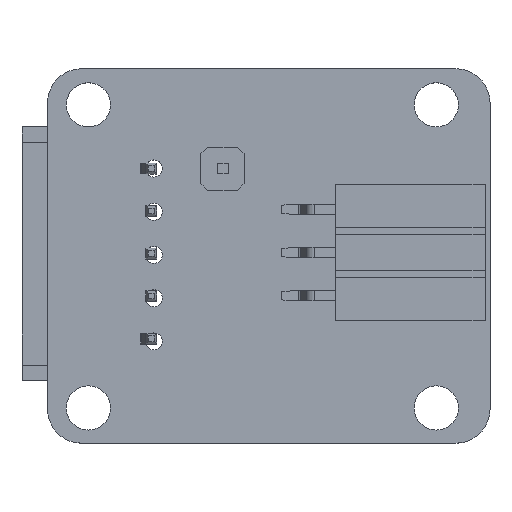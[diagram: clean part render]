
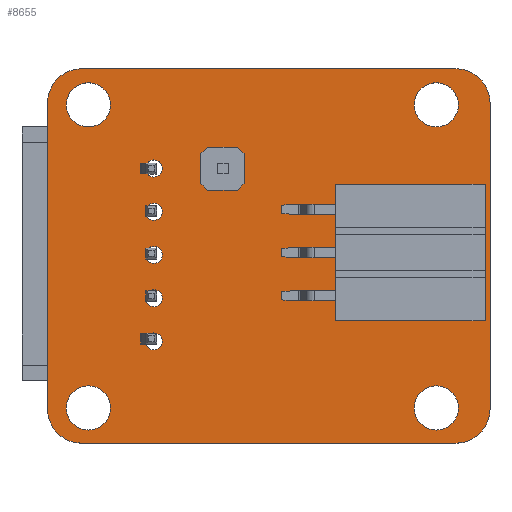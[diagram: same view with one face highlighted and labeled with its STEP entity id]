
A CAD part, top view. The second image highlights one B-rep face of the part: STEP entity #8655.
In plain terms, the highlighted planar face has unit normal (0, 0, 1).
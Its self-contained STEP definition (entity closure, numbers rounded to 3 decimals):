
#8396 = VERTEX_POINT('',#8397);
#8397 = CARTESIAN_POINT('',(79.53,-64.16,1.51));
#8403 = EDGE_CURVE('',#8396,#8404,#8406,.T.);
#8404 = VERTEX_POINT('',#8405);
#8405 = CARTESIAN_POINT('',(81.53,-66.16,1.51));
#8406 = CIRCLE('',#8407,2.);
#8407 = AXIS2_PLACEMENT_3D('',#8408,#8409,#8410);
#8408 = CARTESIAN_POINT('',(79.53,-66.16,1.51));
#8409 = DIRECTION('',(0.,0.,-1.));
#8410 = DIRECTION('',(0.,1.,0.));
#8438 = VERTEX_POINT('',#8439);
#8439 = CARTESIAN_POINT('',(57.53,-64.16,1.51));
#8445 = EDGE_CURVE('',#8438,#8396,#8446,.T.);
#8446 = LINE('',#8447,#8448);
#8447 = CARTESIAN_POINT('',(57.53,-64.16,1.51));
#8448 = VECTOR('',#8449,1.);
#8449 = DIRECTION('',(1.,0.,0.));
#8467 = EDGE_CURVE('',#8404,#8468,#8470,.T.);
#8468 = VERTEX_POINT('',#8469);
#8469 = CARTESIAN_POINT('',(81.53,-84.16,1.51));
#8470 = LINE('',#8471,#8472);
#8471 = CARTESIAN_POINT('',(81.53,-66.16,1.51));
#8472 = VECTOR('',#8473,1.);
#8473 = DIRECTION('',(0.,-1.,0.));
#8655 = ADVANCED_FACE('',(#8656,#8702,#8713,#8724,#8735,#8746,#8757,
    #8768,#8779,#8790,#8801),#8812,.T.);
#8656 = FACE_BOUND('',#8657,.T.);
#8657 = EDGE_LOOP('',(#8658,#8659,#8660,#8669,#8677,#8686,#8694,#8701));
#8658 = ORIENTED_EDGE('',*,*,#8403,.F.);
#8659 = ORIENTED_EDGE('',*,*,#8445,.F.);
#8660 = ORIENTED_EDGE('',*,*,#8661,.F.);
#8661 = EDGE_CURVE('',#8662,#8438,#8664,.T.);
#8662 = VERTEX_POINT('',#8663);
#8663 = CARTESIAN_POINT('',(55.53,-66.16,1.51));
#8664 = CIRCLE('',#8665,2.);
#8665 = AXIS2_PLACEMENT_3D('',#8666,#8667,#8668);
#8666 = CARTESIAN_POINT('',(57.53,-66.16,1.51));
#8667 = DIRECTION('',(0.,0.,-1.));
#8668 = DIRECTION('',(-1.,0.,-0.));
#8669 = ORIENTED_EDGE('',*,*,#8670,.F.);
#8670 = EDGE_CURVE('',#8671,#8662,#8673,.T.);
#8671 = VERTEX_POINT('',#8672);
#8672 = CARTESIAN_POINT('',(55.53,-84.16,1.51));
#8673 = LINE('',#8674,#8675);
#8674 = CARTESIAN_POINT('',(55.53,-84.16,1.51));
#8675 = VECTOR('',#8676,1.);
#8676 = DIRECTION('',(0.,1.,0.));
#8677 = ORIENTED_EDGE('',*,*,#8678,.F.);
#8678 = EDGE_CURVE('',#8679,#8671,#8681,.T.);
#8679 = VERTEX_POINT('',#8680);
#8680 = CARTESIAN_POINT('',(57.53,-86.16,1.51));
#8681 = CIRCLE('',#8682,2.);
#8682 = AXIS2_PLACEMENT_3D('',#8683,#8684,#8685);
#8683 = CARTESIAN_POINT('',(57.53,-84.16,1.51));
#8684 = DIRECTION('',(0.,0.,-1.));
#8685 = DIRECTION('',(0.,-1.,0.));
#8686 = ORIENTED_EDGE('',*,*,#8687,.F.);
#8687 = EDGE_CURVE('',#8688,#8679,#8690,.T.);
#8688 = VERTEX_POINT('',#8689);
#8689 = CARTESIAN_POINT('',(79.53,-86.16,1.51));
#8690 = LINE('',#8691,#8692);
#8691 = CARTESIAN_POINT('',(79.53,-86.16,1.51));
#8692 = VECTOR('',#8693,1.);
#8693 = DIRECTION('',(-1.,0.,0.));
#8694 = ORIENTED_EDGE('',*,*,#8695,.F.);
#8695 = EDGE_CURVE('',#8468,#8688,#8696,.T.);
#8696 = CIRCLE('',#8697,2.);
#8697 = AXIS2_PLACEMENT_3D('',#8698,#8699,#8700);
#8698 = CARTESIAN_POINT('',(79.53,-84.16,1.51));
#8699 = DIRECTION('',(0.,0.,-1.));
#8700 = DIRECTION('',(1.,0.,0.));
#8701 = ORIENTED_EDGE('',*,*,#8467,.F.);
#8702 = FACE_BOUND('',#8703,.T.);
#8703 = EDGE_LOOP('',(#8704));
#8704 = ORIENTED_EDGE('',*,*,#8705,.T.);
#8705 = EDGE_CURVE('',#8706,#8706,#8708,.T.);
#8706 = VERTEX_POINT('',#8707);
#8707 = CARTESIAN_POINT('',(57.93,-85.39,1.51));
#8708 = CIRCLE('',#8709,1.3);
#8709 = AXIS2_PLACEMENT_3D('',#8710,#8711,#8712);
#8710 = CARTESIAN_POINT('',(57.93,-84.09,1.51));
#8711 = DIRECTION('',(-0.,0.,-1.));
#8712 = DIRECTION('',(-0.,-1.,0.));
#8713 = FACE_BOUND('',#8714,.T.);
#8714 = EDGE_LOOP('',(#8715));
#8715 = ORIENTED_EDGE('',*,*,#8716,.T.);
#8716 = EDGE_CURVE('',#8717,#8717,#8719,.T.);
#8717 = VERTEX_POINT('',#8718);
#8718 = CARTESIAN_POINT('',(61.78,-80.68,1.51));
#8719 = CIRCLE('',#8720,0.5);
#8720 = AXIS2_PLACEMENT_3D('',#8721,#8722,#8723);
#8721 = CARTESIAN_POINT('',(61.78,-80.18,1.51));
#8722 = DIRECTION('',(-0.,0.,-1.));
#8723 = DIRECTION('',(-0.,-1.,0.));
#8724 = FACE_BOUND('',#8725,.T.);
#8725 = EDGE_LOOP('',(#8726));
#8726 = ORIENTED_EDGE('',*,*,#8727,.T.);
#8727 = EDGE_CURVE('',#8728,#8728,#8730,.T.);
#8728 = VERTEX_POINT('',#8729);
#8729 = CARTESIAN_POINT('',(61.78,-78.14,1.51));
#8730 = CIRCLE('',#8731,0.5);
#8731 = AXIS2_PLACEMENT_3D('',#8732,#8733,#8734);
#8732 = CARTESIAN_POINT('',(61.78,-77.64,1.51));
#8733 = DIRECTION('',(-0.,0.,-1.));
#8734 = DIRECTION('',(-0.,-1.,0.));
#8735 = FACE_BOUND('',#8736,.T.);
#8736 = EDGE_LOOP('',(#8737));
#8737 = ORIENTED_EDGE('',*,*,#8738,.T.);
#8738 = EDGE_CURVE('',#8739,#8739,#8741,.T.);
#8739 = VERTEX_POINT('',#8740);
#8740 = CARTESIAN_POINT('',(78.37,-85.39,1.51));
#8741 = CIRCLE('',#8742,1.3);
#8742 = AXIS2_PLACEMENT_3D('',#8743,#8744,#8745);
#8743 = CARTESIAN_POINT('',(78.37,-84.09,1.51));
#8744 = DIRECTION('',(-0.,0.,-1.));
#8745 = DIRECTION('',(-0.,-1.,0.));
#8746 = FACE_BOUND('',#8747,.T.);
#8747 = EDGE_LOOP('',(#8748));
#8748 = ORIENTED_EDGE('',*,*,#8749,.T.);
#8749 = EDGE_CURVE('',#8750,#8750,#8752,.T.);
#8750 = VERTEX_POINT('',#8751);
#8751 = CARTESIAN_POINT('',(61.78,-75.6,1.51));
#8752 = CIRCLE('',#8753,0.5);
#8753 = AXIS2_PLACEMENT_3D('',#8754,#8755,#8756);
#8754 = CARTESIAN_POINT('',(61.78,-75.1,1.51));
#8755 = DIRECTION('',(-0.,0.,-1.));
#8756 = DIRECTION('',(-0.,-1.,0.));
#8757 = FACE_BOUND('',#8758,.T.);
#8758 = EDGE_LOOP('',(#8759));
#8759 = ORIENTED_EDGE('',*,*,#8760,.T.);
#8760 = EDGE_CURVE('',#8761,#8761,#8763,.T.);
#8761 = VERTEX_POINT('',#8762);
#8762 = CARTESIAN_POINT('',(61.78,-73.06,1.51));
#8763 = CIRCLE('',#8764,0.5);
#8764 = AXIS2_PLACEMENT_3D('',#8765,#8766,#8767);
#8765 = CARTESIAN_POINT('',(61.78,-72.56,1.51));
#8766 = DIRECTION('',(-0.,0.,-1.));
#8767 = DIRECTION('',(-0.,-1.,0.));
#8768 = FACE_BOUND('',#8769,.T.);
#8769 = EDGE_LOOP('',(#8770));
#8770 = ORIENTED_EDGE('',*,*,#8771,.T.);
#8771 = EDGE_CURVE('',#8772,#8772,#8774,.T.);
#8772 = VERTEX_POINT('',#8773);
#8773 = CARTESIAN_POINT('',(61.78,-70.52,1.51));
#8774 = CIRCLE('',#8775,0.5);
#8775 = AXIS2_PLACEMENT_3D('',#8776,#8777,#8778);
#8776 = CARTESIAN_POINT('',(61.78,-70.02,1.51));
#8777 = DIRECTION('',(-0.,0.,-1.));
#8778 = DIRECTION('',(-0.,-1.,0.));
#8779 = FACE_BOUND('',#8780,.T.);
#8780 = EDGE_LOOP('',(#8781));
#8781 = ORIENTED_EDGE('',*,*,#8782,.T.);
#8782 = EDGE_CURVE('',#8783,#8783,#8785,.T.);
#8783 = VERTEX_POINT('',#8784);
#8784 = CARTESIAN_POINT('',(57.93,-67.58,1.51));
#8785 = CIRCLE('',#8786,1.3);
#8786 = AXIS2_PLACEMENT_3D('',#8787,#8788,#8789);
#8787 = CARTESIAN_POINT('',(57.93,-66.28,1.51));
#8788 = DIRECTION('',(-0.,0.,-1.));
#8789 = DIRECTION('',(-0.,-1.,0.));
#8790 = FACE_BOUND('',#8791,.T.);
#8791 = EDGE_LOOP('',(#8792));
#8792 = ORIENTED_EDGE('',*,*,#8793,.T.);
#8793 = EDGE_CURVE('',#8794,#8794,#8796,.T.);
#8794 = VERTEX_POINT('',#8795);
#8795 = CARTESIAN_POINT('',(65.81,-70.74,1.51));
#8796 = CIRCLE('',#8797,0.7);
#8797 = AXIS2_PLACEMENT_3D('',#8798,#8799,#8800);
#8798 = CARTESIAN_POINT('',(65.81,-70.04,1.51));
#8799 = DIRECTION('',(-0.,0.,-1.));
#8800 = DIRECTION('',(-0.,-1.,0.));
#8801 = FACE_BOUND('',#8802,.T.);
#8802 = EDGE_LOOP('',(#8803));
#8803 = ORIENTED_EDGE('',*,*,#8804,.T.);
#8804 = EDGE_CURVE('',#8805,#8805,#8807,.T.);
#8805 = VERTEX_POINT('',#8806);
#8806 = CARTESIAN_POINT('',(78.37,-67.58,1.51));
#8807 = CIRCLE('',#8808,1.3);
#8808 = AXIS2_PLACEMENT_3D('',#8809,#8810,#8811);
#8809 = CARTESIAN_POINT('',(78.37,-66.28,1.51));
#8810 = DIRECTION('',(-0.,0.,-1.));
#8811 = DIRECTION('',(-0.,-1.,0.));
#8812 = PLANE('',#8813);
#8813 = AXIS2_PLACEMENT_3D('',#8814,#8815,#8816);
#8814 = CARTESIAN_POINT('',(0.,0.,1.51));
#8815 = DIRECTION('',(0.,0.,1.));
#8816 = DIRECTION('',(1.,0.,-0.));
